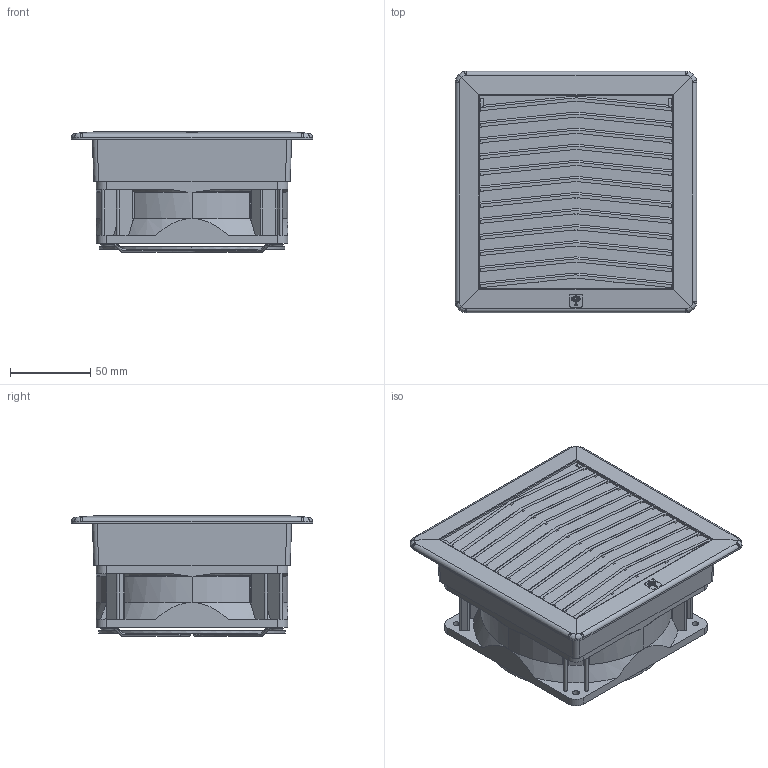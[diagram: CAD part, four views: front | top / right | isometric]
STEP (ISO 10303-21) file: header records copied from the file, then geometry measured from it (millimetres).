
FILE_DESCRIPTION (( 'STEP AP214' ), '1' );
FILE_NAME ('GF12KyDxxB.STEP', '2023-10-17T12:09:05', ( '' ), ( '' ), 'SwSTEP 2.0', 'SolidWorks 2022', '' );
FILE_SCHEMA (( 'AUTOMOTIVE_DESIGN' ));
Length unit declared in the file: millimetre
Products named in the file (6): GF12KyDxxB; GF12B-7035_semplificata; GF12KUG_assieme semplificato; DT-02371DSI_Semplificato; GF12C-7035_Semplificato; DT-01853DSI_Semplificata
Assembly tree (5 placements, depth 3):
  GF12KyDxxB
    GF12KUG_assieme semplificato
      GF12B-7035_semplificata
      GF12C-7035_Semplificato
    DT-02371DSI_Semplificato
    DT-01853DSI_Semplificata
Bounding box: 150 x 150 x 74.76 mm (x, y, z)
Volume: 494180.1 mm3; surface area: 148287.4 mm2
Topology: 14 solids, 16 shells, 509 faces, 1353 edges, 893 vertices
Faces by surface type: plane 233, bspline 157, cylinder 97, cone 21, torus 1
Entity records: 29300 total; most frequent: CARTESIAN_POINT 16147, ORIENTED_EDGE 2702, DIRECTION 1646, EDGE_CURVE 1351, VERTEX_POINT 893, VECTOR 696, LINE 696, EDGE_LOOP 546
